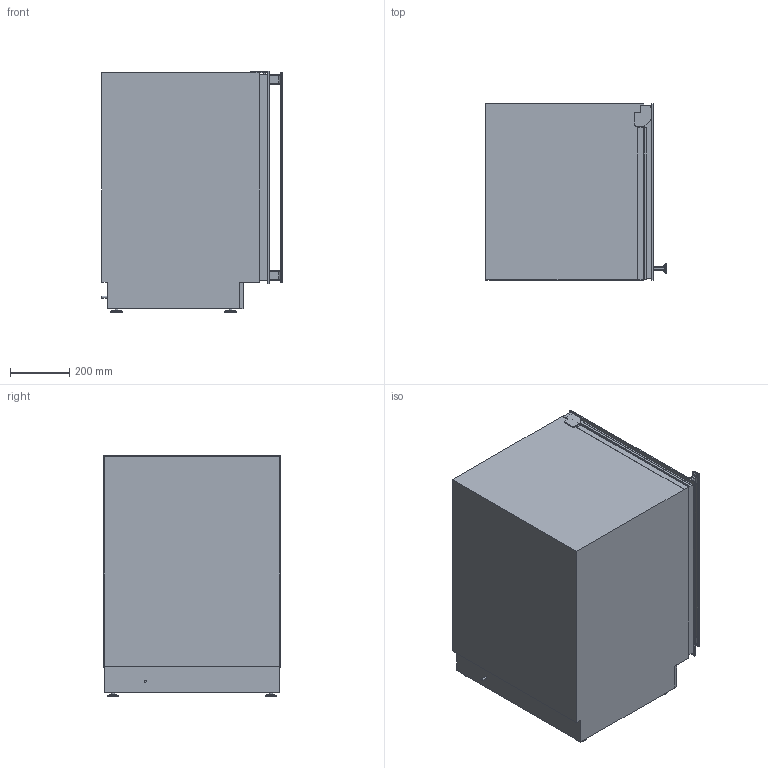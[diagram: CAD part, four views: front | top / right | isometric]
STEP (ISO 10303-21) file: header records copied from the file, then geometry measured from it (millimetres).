
FILE_DESCRIPTION(/* description */ (''),/* implementation_level */ '2;1');
FILE_NAME(/* name */ 'CVI638RWN3.stp',/* time_stamp */ '2021-07-02T11:01:50+02:00',/* author */ (''),/* organization */ (''),/* preprocessor_version */ 'ST-DEVELOPER v16',/* originating_system */ 'SIEMENS PLM Software NX 11.0',/* authorisation */ '');
FILE_SCHEMA (('AUTOMOTIVE_DESIGN { 1 0 10303 214 3 1 1 1 }'));
Length unit declared in the file: millimetre
Products named in the file (1): mart5AC401E8m0j9
Bounding box: 612.2 x 596 x 818.45 mm (x, y, z)
Volume: 264080895.2 mm3; surface area: 4441133.1 mm2
Topology: 16 solids, 16 shells, 215 faces, 491 edges, 316 vertices
Faces by surface type: plane 123, cylinder 65, extrusion 11, torus 8, sphere 4, cone 4
Full cylindrical faces by diameter (mm): 4.608 x6, 6 x1, 7 x1, 10.58 x4, 40 x4
Entity records: 6290 total; most frequent: CARTESIAN_POINT 1341, DIRECTION 999, ORIENTED_EDGE 932, EDGE_CURVE 466, AXIS2_PLACEMENT_3D 348, VERTEX_POINT 316, VECTOR 303, LINE 292
